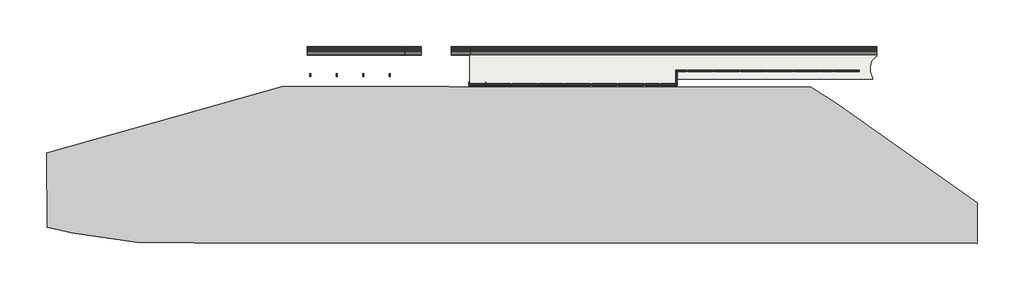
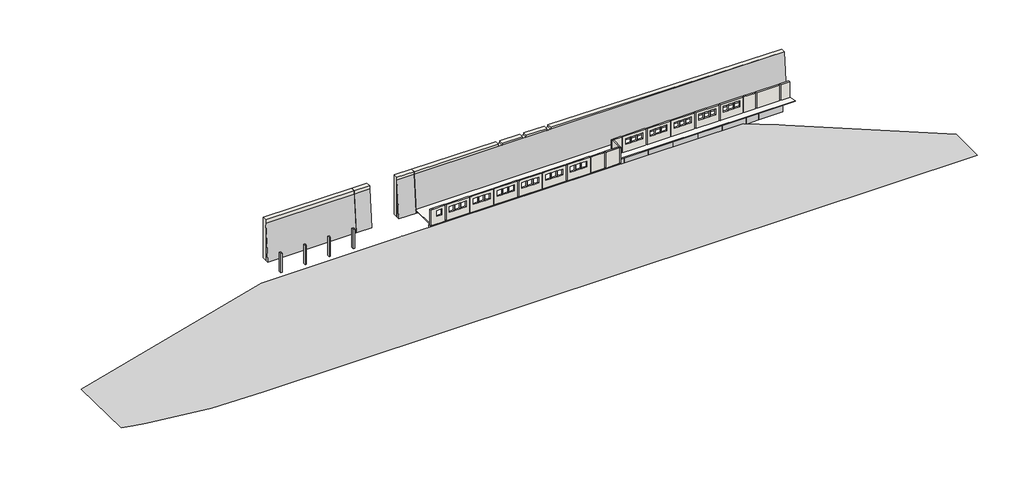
# One storey, incomplete: 23 walls, 17 beams, 5 proxies, 4 columns, 1 slab.
"""IFC4 building model written with IfcOpenShell, lengths in millimetres."""

from ifc_helpers import new_model, si_unit, point, frame, frame_2d, origin, place, context, project, spatial, polyline, circle_curve, trimmed, segment, composite_curve, outline, extrude, faceted_brep, triangles, element, save
from ifc_brep_helpers import plane_surface, revolved_surface, advanced_brep

model = new_model("IFC4")

# Units and contexts
model_context = context("Model", 3, world=origin())
ifc_project = project(units=[si_unit("LENGTHUNIT", "METRE", prefix="MILLI")], contexts=[model_context])

# Site, building, storey
site = spatial("IfcSite", under=ifc_project)
building = spatial("IfcBuilding", under=site)
storey = spatial("IfcBuildingStorey", under=building, Name="Level 01 - B.O. Footing", Elevation=-8650.0)

# Beams
placement = place(None, origin())
element("IfcBeam", 1, ObjectType="Calcestruzzo - Trave rettangolare : 600 x 1700mm", at=placement, inside=storey, context=model_context, shape_type="Brep", body=[
    faceted_brep([(17065.5072892, 24488.3920265, -8039.9600555), (17065.5072892, 23888.3920265, -8039.9600555), (17065.5394229, 23888.3920265, -8050.0), (17070.9482657, 23888.3920265, -9739.9513483), (17070.9482657, 24488.3920265, -9739.9513483), (17065.5394229, 24488.3920265, -8050.0), (13916.1234199, 24488.3920265, -8050.0399445), (13921.5643964, 24488.3920265, -9750.0312374), (13921.5643964, 23888.3920265, -9750.0312374), (13916.1234199, 23888.3920265, -8050.0399445), (16929.6573777, 23888.3920265, -9740.4035626), (16929.6573777, 24488.3920265, -9740.4035626)], [[[0, 1, 2, 3, 4, 5]], [[6, 7, 8, 9]], [[1, 0, 6, 9]], [[3, 2, 1, 9, 8, 10]], [[4, 3, 10, 8, 7, 11]], [[0, 5, 4, 11, 7, 6]]]),
])
element("IfcBeam", 2, ObjectType="Calcestruzzo - Trave rettangolare : 600 x 1700mm", at=placement, inside=storey, context=model_context, shape_type="SweptSolid", body=[
    extrude(outline(polyline([(-9750.0, 16929.6573777), (-9750.0, 21782.3573777), (-8050.0, 21782.3573777), (-8050.0, 17065.5394229), (-9739.9513483, 17070.9482657), (-9740.4035626, 16929.6573777), (-9750.0, 16929.6573777)])), frame((0.0, 23888.3920265, 0.0), z_axis=(0.0, 1.0, 0.0), x_axis=(0.0, 0.0, 1.0)), (0.0, 0.0, 1.0), 600.0),
])
element("IfcBeam", 3, ObjectType="Calcestruzzo - Trave rettangolare : 600 x 1700mm", at=placement, inside=storey, context=model_context, shape_type="SweptSolid", body=[
    extrude(outline(polyline([(53747.930208, 26413.3920265), (53796.7845474, 25813.3920265), (52039.532505, 25525.3175098), (51845.1874777, 26101.4665433), (53747.930208, 26413.3920265)])), frame((0.0, 0.0, -9750.0), z_axis=(0.0, 0.0, 1.0), x_axis=(1.0, 0.0, 0.0)), (0.0, 0.0, 1.0), 1700.0),
])
element("IfcBeam", 4, ObjectType="Calcestruzzo - Trave rettangolare : 600 x 1700mm", at=placement, inside=storey, context=model_context, shape_type="SweptSolid", body=[
    extrude(outline(polyline([(26622.3573777, 24488.3920265), (26622.3573777, 23888.3920265), (21782.3573777, 23888.3920265), (21782.3573777, 24488.3920265), (26622.3573777, 24488.3920265)])), frame((0.0, 0.0, -9750.0), z_axis=(0.0, 0.0, 1.0), x_axis=(1.0, 0.0, 0.0)), (0.0, 0.0, 1.0), 1700.0),
])
element("IfcBeam", 5, ObjectType="Calcestruzzo - Trave rettangolare : 600 x 1700mm", at=placement, inside=storey, context=model_context, shape_type="SweptSolid", body=[
    extrude(outline(polyline([(31461.2726812, 24488.3920265), (31463.4420743, 23888.3920265), (26622.3573777, 23888.3920265), (26622.3573777, 24488.3920265), (31461.2726812, 24488.3920265)])), frame((0.0, 0.0, -9750.0), z_axis=(0.0, 0.0, 1.0), x_axis=(1.0, 0.0, 0.0)), (0.0, 0.0, 1.0), 1700.0),
])
element("IfcBeam", 6, ObjectType="Calcestruzzo - Trave rettangolare : 600 x 1700mm", at=placement, inside=storey, context=model_context, shape_type="SweptSolid", body=[
    extrude(outline(polyline([(36301.2726812, 24523.3920265), (36303.4420743, 23923.3920265), (31463.4420743, 23888.3920265), (31461.2726812, 24488.3920265), (36301.2726812, 24523.3920265)])), frame((0.0, 0.0, -9750.0), z_axis=(0.0, 0.0, 1.0), x_axis=(1.0, 0.0, 0.0)), (0.0, 0.0, 1.0), 1700.0),
])
element("IfcBeam", 7, ObjectType="Calcestruzzo - Trave rettangolare : 600 x 1700mm", at=placement, inside=storey, context=model_context, shape_type="SweptSolid", body=[
    extrude(outline(polyline([(41142.3573777, 24523.3920265), (41142.3573777, 23923.3920265), (36303.4420743, 23923.3920265), (36301.2726812, 24523.3920265), (41142.3573777, 24523.3920265)])), frame((0.0, 0.0, -9750.0), z_axis=(0.0, 0.0, 1.0), x_axis=(1.0, 0.0, 0.0)), (0.0, 0.0, 1.0), 1700.0),
])
element("IfcBeam", 8, ObjectType="Calcestruzzo - Trave rettangolare : 600 x 1700mm", at=placement, inside=storey, context=model_context, shape_type="SweptSolid", body=[
    extrude(outline(polyline([(46044.2058991, 24523.3920265), (46040.5088564, 23923.3920265), (41142.3573777, 23923.3920265), (41142.3573777, 24523.3920265), (46044.2058991, 24523.3920265)])), frame((0.0, 0.0, -9750.0), z_axis=(0.0, 0.0, 1.0), x_axis=(1.0, 0.0, 0.0)), (0.0, 0.0, 1.0), 1700.0),
])
element("IfcBeam", 9, ObjectType="Calcestruzzo - Trave rettangolare : 600 x 1700mm", at=placement, inside=storey, context=model_context, shape_type="Brep", body=[
    faceted_brep([(46044.2058991, 24523.3920265, -8050.0), (46040.5088564, 23923.3920265, -8050.0), (48955.3367426, 23887.4698519, -8050.0), (50059.6420953, 24473.9060171, -8050.0), (48809.3780129, 24489.3142012, -8050.0), (46040.5088564, 23923.3920265, -9750.0), (48955.3367426, 23887.4698519, -9750.0), (46044.2058991, 24523.3920265, -9750.0), (48809.3780129, 24489.3142012, -9750.0), (50059.6420953, 24473.9060171, -9750.0)], [[[0, 1, 2, 3, 4]], [[1, 5, 6, 2]], [[5, 7, 8, 9, 6]], [[7, 0, 4, 3, 9, 8]], [[3, 2, 6, 9]], [[0, 7, 5, 1]]]),
])
element("IfcBeam", 10, ObjectType="Calcestruzzo - Trave rettangolare : 600 x 1700mm", at=placement, inside=storey, context=model_context, shape_type="SweptSolid", body=[
    extrude(outline(polyline([(68362.3573777, 26063.3893107), (68362.3573777, 25463.3893107), (63471.5908914, 25463.3893107), (63493.1238641, 26063.3893107), (68362.3573777, 26063.3893107)])), frame((0.0, 0.0, -9750.0), z_axis=(0.0, 0.0, 1.0), x_axis=(1.0, 0.0, 0.0)), (0.0, 0.0, 1.0), 1700.0),
])
element("IfcBeam", 11, ObjectType="Calcestruzzo - Trave rettangolare : 600 x 1700mm", at=placement, inside=storey, context=model_context, shape_type="SweptSolid", body=[
    extrude(outline(polyline([(58601.5908914, 25813.3920265), (53796.7845474, 25813.3920265), (53747.930208, 26413.3920265), (58623.1238641, 26413.3920265), (58601.5908914, 25813.3920265)])), frame((0.0, 0.0, -9750.0), z_axis=(0.0, 0.0, 1.0), x_axis=(1.0, 0.0, 0.0)), (0.0, 0.0, 1.0), 1700.0),
])
element("IfcBeam", 12, ObjectType="Calcestruzzo - Trave rettangolare : 600 x 1700mm", at=placement, inside=storey, context=model_context, shape_type="SweptSolid", body=[
    extrude(outline(polyline([(63471.5908914, 25463.3893107), (58601.5908914, 25813.3920265), (58623.1238641, 26413.3920265), (63493.1238641, 26063.3893107), (63471.5908914, 25463.3893107)])), frame((0.0, 0.0, -9750.0), z_axis=(0.0, 0.0, 1.0), x_axis=(1.0, 0.0, 0.0)), (0.0, 0.0, 1.0), 1700.0),
])
element("IfcBeam", 13, ObjectType="Calcestruzzo - Trave rettangolare : 600 x 1700mm", at=placement, inside=storey, context=model_context, shape_type="SweptSolid", body=[
    extrude(outline(polyline([(50059.6420953, 24473.9060171), (48809.3780129, 24489.3142012), (51845.1874777, 26101.4665433), (52039.532505, 25525.3175098), (50059.6420953, 24473.9060171)])), frame((0.0, 0.0, -9750.0), z_axis=(0.0, 0.0, 1.0), x_axis=(1.0, 0.0, 0.0)), (0.0, 0.0, 1.0), 1700.0),
])
element("IfcBeam", 14, ObjectType="Calcestruzzo - Trave rettangolare : 600 x 1700mm", at=placement, inside=storey, context=model_context, shape_type="SweptSolid", body=[
    extrude(outline(polyline([(73232.3573777, 26063.3893107), (73232.3573777, 25463.3893107), (68362.3573777, 25463.3893107), (68362.3573777, 26063.3893107), (73232.3573777, 26063.3893107)])), frame((0.0, 0.0, -9750.0), z_axis=(0.0, 0.0, 1.0), x_axis=(1.0, 0.0, 0.0)), (0.0, 0.0, 1.0), 1700.0),
])
element("IfcBeam", 15, ObjectType="Calcestruzzo - Trave rettangolare : 600 x 1700mm", at=placement, inside=storey, context=model_context, shape_type="SweptSolid", body=[
    extrude(outline(polyline([(78032.3573777, 26063.3893107), (78032.3573777, 25463.3893107), (73232.3573777, 25463.3893107), (73232.3573777, 26063.3893107), (78032.3573777, 26063.3893107)])), frame((0.0, 0.0, -9750.0), z_axis=(0.0, 0.0, 1.0), x_axis=(1.0, 0.0, 0.0)), (0.0, 0.0, 1.0), 1700.0),
])
element("IfcBeam", 16, ObjectType="Calcestruzzo - Trave rettangolare : 600 x 1700mm", at=placement, inside=storey, context=model_context, shape_type="SweptSolid", body=[
    extrude(outline(polyline([(80582.3573777, 26063.3893107), (80582.3573777, 25463.3893107), (78032.3573777, 25463.3893107), (78032.3573777, 26063.3893107), (80582.3573777, 26063.3893107)])), frame((0.0, 0.0, -9750.0), z_axis=(0.0, 0.0, 1.0), x_axis=(1.0, 0.0, 0.0)), (0.0, 0.0, 1.0), 1700.0),
])
element("IfcBeam", 17, ObjectType="Calcestruzzo - Trave rettangolare : 600 x 1700mm", at=placement, inside=storey, context=model_context, shape_type="SweptSolid", body=[
    extrude(outline(polyline([(85395.0573777, 26063.3893107), (85395.0573777, 25463.3893107), (80582.3573777, 25463.3893107), (80582.3573777, 26063.3893107), (85395.0573777, 26063.3893107)])), frame((0.0, 0.0, -9750.0), z_axis=(0.0, 0.0, 1.0), x_axis=(1.0, 0.0, 0.0)), (0.0, 0.0, 1.0), 1700.0),
])

# Proxies
element("IfcBuildingElementProxy", 18, Name="Wall Sweeps", at=placement, inside=storey, context=model_context, shape_type="SweptSolid", body=[
    extrude(outline(polyline([(30121.9947423, -8650.0), (29421.9947423, -8650.0), (30121.9947423, -850.0), (30121.9947423, -8650.0)])), frame((2232.3573777, 0.0, 0.0), z_axis=(1.0, 0.0, 0.0), x_axis=(0.0, 1.0, 0.0)), (0.0, 0.0, 1.0), 3060.0),
])
element("IfcBuildingElementProxy", 19, Name="Building Element Proxy", at=placement, inside=storey, context=model_context, shape_type="Tessellation", body=[
    triangles([(-63135.4114014, 11549.0683136, -8000.000061), (-20106.1913452, 23663.3881714, -8000.000061), (-471.2723969, 23308.9539917, -8000.000061), (8167.0113785, 23663.3881714, -8000.000061), (76387.3560059, 23563.3919495, -8000.000061), (81157.6973877, 20531.6979309, -8000.000061), (106837.1718018, 2403.864172, -8000.000061), (106837.1718018, -4950.5251511, -8000.000061), (-36140.2824097, -4931.2152832, -8000.000061), (-46534.6153931, -4804.4515091, -8000.000061), (-58574.9176758, -3037.9852043, -8000.000061), (-60851.4484863, -2532.0902115, -8000.000061), (-62976.2071655, -2026.1950733, -8000.000061)], [[1, 11, 10], [2, 1, 10], [1, 13, 12], [1, 12, 11], [10, 9, 2], [6, 8, 7], [8, 6, 4], [2, 3, 4], [2, 9, 3], [3, 9, 4], [6, 5, 4], [9, 8, 4]], closed=False),
])
element("IfcBuildingElementProxy", 20, Name="Wall Sweeps", at=placement, inside=storey, context=model_context, shape_type="SweptSolid", body=[
    extrude(outline(polyline([(30121.9947423, -8650.0), (29421.9947423, -8650.0), (30121.9947423, -850.0), (30121.9947423, -8650.0)])), frame((10792.3573777, 0.0, 0.0), z_axis=(1.0, 0.0, 0.0), x_axis=(0.0, 1.0, 0.0)), (0.0, 0.0, 1.0), 3420.0),
])
element("IfcBuildingElementProxy", 21, Name="Wall Sweeps", at=placement, inside=storey, context=model_context, shape_type="SweptSolid", body=[
    extrude(outline(polyline([(30121.9947423, -8650.0), (29421.9947423, -8650.0), (30121.9947423, -850.0), (30121.9947423, -8650.0)])), frame((-15507.6426223, 0.0, 0.0), z_axis=(1.0, 0.0, 0.0), x_axis=(0.0, 1.0, 0.0)), (0.0, 0.0, 1.0), 17740.0),
])
element("IfcBuildingElementProxy", 22, Name="Wall Sweeps", at=placement, inside=storey, context=model_context, shape_type="Brep", body=[
    faceted_brep([(88407.3573777, 30121.9947423, -8650.0), (88407.3573777, 30121.9947423, -869.2731189), (88407.3573777, 30121.9947423, -850.0), (88407.3573777, 29421.9947423, -8650.0), (14212.3573777, 30121.9947423, -8650.0), (14212.3573777, 29421.9947423, -8650.0), (14212.3573777, 30121.9947423, -850.0)], [[[0, 1, 2, 3]], [[4, 5, 6]], [[2, 1, 0, 4, 6]], [[3, 2, 6, 5]], [[0, 3, 5, 4]]]),
])

# Columns
element("IfcColumn", 23, ObjectType="Pilastro in calcestruzzo - Rettangolare : 250 x 500", at=placement, inside=storey, context=model_context, shape_type="Brep", body=[
    faceted_brep([(-346.2723874, 26013.3893107, -8650.0), (-346.2723874, 25513.3893107, -8650.0), (-596.2723874, 25513.3893107, -8650.0), (-596.2723874, 26013.3893107, -8650.0), (-346.2723874, 26013.3893107, -4870.0), (-346.2723874, 26013.3893107, -4570.0), (-346.2723874, 25713.3893107, -4570.0), (-346.2723874, 25513.3893107, -4570.0), (-596.2723874, 25513.3893107, -4570.0), (-596.2723874, 25713.3893107, -4570.0), (-596.2723874, 26013.3893107, -4570.0), (-596.2723874, 26013.3893107, -4870.0)], [[[0, 1, 2, 3]], [[1, 0, 4, 5, 6, 7]], [[2, 1, 7, 8]], [[3, 2, 8, 9, 10, 11]], [[0, 3, 11, 10, 5, 4]], [[7, 6, 5, 10, 9, 8]]]),
])
element("IfcColumn", 24, ObjectType="Pilastro in calcestruzzo - Rettangolare : 250 x 500", at=placement, inside=storey, context=model_context, shape_type="Brep", body=[
    faceted_brep([(-5186.275001, 26013.3893107, -8650.0), (-5186.275001, 25513.3893107, -8650.0), (-5436.275001, 25513.3893107, -8650.0), (-5436.275001, 26013.3893107, -8650.0), (-5186.275001, 26013.3893107, -4870.0), (-5186.275001, 26013.3893107, -4570.0), (-5186.275001, 25713.3893107, -4570.0), (-5186.275001, 25513.3893107, -4570.0), (-5436.275001, 25513.3893107, -4570.0), (-5436.275001, 25713.3893107, -4570.0), (-5436.275001, 26013.3893107, -4570.0), (-5436.275001, 26013.3893107, -4870.0)], [[[0, 1, 2, 3]], [[1, 0, 4, 5, 6, 7]], [[2, 1, 7, 8]], [[3, 2, 8, 9, 10, 11]], [[0, 3, 11, 10, 5, 4]], [[7, 6, 5, 10, 9, 8]]]),
])
element("IfcColumn", 25, ObjectType="Pilastro in calcestruzzo - Rettangolare : 250 x 500", at=placement, inside=storey, context=model_context, shape_type="Brep", body=[
    faceted_brep([(-10026.2776146, 26013.3893107, -8650.0), (-10026.2776146, 25513.3893107, -8650.0), (-10276.2776146, 25513.3893107, -8650.0), (-10276.2776146, 26013.3893107, -8650.0), (-10026.2776146, 26013.3893107, -4870.0), (-10026.2776146, 26013.3893107, -4570.0), (-10026.2776146, 25713.3893107, -4570.0), (-10026.2776146, 25513.3893107, -4570.0), (-10276.2776146, 25513.3893107, -4570.0), (-10276.2776146, 25713.3893107, -4570.0), (-10276.2776146, 26013.3893107, -4570.0), (-10276.2776146, 26013.3893107, -4870.0)], [[[0, 1, 2, 3]], [[1, 0, 4, 5, 6, 7]], [[2, 1, 7, 8]], [[3, 2, 8, 9, 10, 11]], [[0, 3, 11, 10, 5, 4]], [[7, 6, 5, 10, 9, 8]]]),
])
element("IfcColumn", 26, ObjectType="Pilastro in calcestruzzo - Rettangolare : 250 x 500", at=placement, inside=storey, context=model_context, shape_type="SweptSolid", body=[
    extrude(outline(polyline([(-14866.2723874, 26013.3893107), (-14866.2723874, 25513.3893107), (-15116.2723874, 25513.3893107), (-15116.2723874, 26013.3893107), (-14866.2723874, 26013.3893107)])), frame((0.0, 0.0, -8650.0), z_axis=(0.0, 0.0, 1.0), x_axis=(1.0, 0.0, 0.0)), (0.0, 0.0, 1.0), 4080.0),
])

# Slab
element("IfcSlab", 27, ObjectType="Concrete Slab - 12cm", at=placement, inside=storey, context=model_context, shape_type="AdvancedBrep", body=[
    advanced_brep(
    [(87674.5247809, 25077.1114671, -8040.0), (87674.5247809, 25077.1114671, -7920.0), (52067.3592785, 25077.1114671, -7920.0), (52067.3592785, 25077.1114671, -8040.0), (14154.8573777, 23913.3920265, -8040.0), (14154.8573777, 23913.3920265, -7920.0), (14154.8573777, 29563.3920265, -7920.0), (14154.8573777, 29563.3920265, -8040.0), (88407.3573777, 29563.3920265, -7920.0), (88407.3573777, 29563.3920265, -8040.0), (52067.3592785, 23913.3920265, -7920.0), (52067.3592785, 23913.3920265, -8040.0), (49007.3573777, 23913.3920265, -7920.0), (48757.3573777, 23913.3920265, -7920.0), (46167.3573777, 23913.3920265, -7920.0), (45917.3573777, 23913.3920265, -7920.0), (41267.3573777, 23913.3920265, -7920.0), (41017.3573777, 23913.3920265, -7920.0), (36427.3573777, 23913.3920265, -7920.0), (36177.3573777, 23913.3920265, -7920.0), (31587.3573777, 23913.3920265, -7920.0), (31337.3573777, 23913.3920265, -7920.0), (26747.3573777, 23913.3920265, -7920.0), (26497.3573777, 23913.3920265, -7920.0), (21907.3573777, 23913.3920265, -7920.0), (21657.3573777, 23913.3920265, -7920.0), (17067.3573777, 23913.3920265, -7920.0), (16817.3573777, 23913.3920265, -7920.0), (88407.3573777, 29220.8551645, -7920.0), (88407.3573777, 29220.8551645, -8040.0), (87307.4436306, 26423.0756846, -7920.0), (87307.4436306, 26423.0756846, -8040.0)],
    [
        (0, 1),
        (1, 2),
        (2, 3),
        (3, 0),
        (4, 5),
        (5, 6),
        (6, 7),
        (7, 4),
        (6, 8),
        (8, 9),
        (9, 7),
        (2, 10),
        (10, 11),
        (11, 3),
        (10, 12),
        (12, 13),
        (13, 14),
        (14, 15),
        (15, 16),
        (16, 17),
        (17, 18),
        (18, 19),
        (19, 20),
        (20, 21),
        (21, 22),
        (22, 23),
        (23, 24),
        (24, 25),
        (25, 26),
        (26, 27),
        (27, 5),
        (4, 11),
        (8, 28),
        (28, 29),
        (29, 9),
        (28, 30, circle_curve(frame((89733.0070866, 27084.5929908, -7920.0), z_axis=(0.0, 0.0, 1.0), x_axis=(1.0, 0.0, 0.0)), 2514.1525859)),
        (30, 31),
        (31, 29, circle_curve(frame((89733.0070866, 27084.5929908, -8040.0), z_axis=(0.0, 0.0, -1.0), x_axis=(1.0, 0.0, 0.0)), 2514.1525859)),
        (30, 1),
        (0, 31),
    ],
    [
        plane_surface(frame((87674.5247809, 25077.1114671, -8040.0), z_axis=(0.0, -1.0, 0.0), x_axis=(0.0, 0.0, 1.0))),
        plane_surface(frame((14154.8573777, 23913.3920265, -8040.0), z_axis=(-1.0, 0.0, 0.0), x_axis=(0.0, 0.0, 1.0))),
        plane_surface(frame((14154.8573777, 29563.3920265, -8040.0), z_axis=(0.0, 1.0, 0.0), x_axis=(0.0, 0.0, 1.0))),
        plane_surface(frame((52067.3592785, 25077.1114671, -8040.0), z_axis=(1.0, 0.0, 0.0), x_axis=(0.0, 0.0, 1.0))),
        plane_surface(frame((52067.3592785, 23913.3920265, -8040.0), z_axis=(0.0, -1.0, 0.0), x_axis=(0.0, 0.0, 1.0))),
        plane_surface(frame((88407.3573777, 29563.3920265, -8040.0), z_axis=(1.0, 0.0, 0.0), x_axis=(0.0, 0.0, 1.0))),
        revolved_surface(polyline([(92247.1596725, 27084.5929908, -7920.0), (92247.1596725, 27084.5929908, -8040.0)]), (89733.0070866, 27084.5929908, -7920.0), (0.0, 0.0, 1.0)),
        plane_surface(frame((87307.4436306, 26423.0756846, -8040.0), z_axis=(0.9647638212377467, 0.26311740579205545, 0.0), x_axis=(0.0, 0.0, 1.0))),
        plane_surface(frame((60530.1395599, 26593.9652362, -7920.0), z_axis=(0.0, 0.0, 1.0), x_axis=(0.0, -1.0, 0.0))),
        plane_surface(frame((60530.1395599, 26593.9652362, -8040.0), z_axis=(0.0, 0.0, -1.0), x_axis=(0.0, -1.0, 0.0))),
    ],
    [
        (0, [[1, 2, 3, 4]]),
        (1, [[5, 6, 7, 8]]),
        (2, [[-7, 9, 10, 11]]),
        (3, [[-3, 12, 13, 14]]),
        (4, [[-13, 15, 16, 17, 18, 19, 20, 21, 22, 23, 24, 25, 26, 27, 28, 29, 30, 31, -5, 32]]),
        (5, [[-10, 33, 34, 35]]),
        (6, [[-34, 36, 37, 38]]),
        (7, [[-37, 39, -1, 40]]),
        (8, [[-6, -31, -30, -29, -28, -27, -26, -25, -24, -23, -22, -21, -20, -19, -18, -17, -16, -15, -12, -2, -39, -36, -33, -9]]),
        (9, [[-11, -35, -38, -40, -4, -14, -32, -8]]),
    ],
),
])

# Walls
element("IfcWall", 28, ObjectType="muro 30cm", at=placement, inside=storey, context=model_context, shape_type="Brep", body=[
    faceted_brep([(17067.3576153, 23913.3920265, -7940.0), (21657.3573777, 23913.3920265, -7940.0), (21657.3573777, 23913.3920265, -7920.0), (21657.3573777, 23913.3920265, -4580.0), (17067.3576153, 23913.3920265, -4580.0), (18667.3573777, 23913.3920265, -5140.0), (18667.3573777, 23913.3920265, -6380.0), (17667.3573777, 23913.3920265, -6380.0), (17667.3573777, 23913.3920265, -5140.0), (19862.3573777, 23913.3920265, -5140.0), (19862.3573777, 23913.3920265, -6380.0), (18862.3573777, 23913.3920265, -6380.0), (18862.3573777, 23913.3920265, -5140.0), (21057.3573777, 23913.3920265, -5140.0), (21057.3573777, 23913.3920265, -6380.0), (20057.3573777, 23913.3920265, -6380.0), (20057.3573777, 23913.3920265, -5140.0), (21657.3573777, 24213.3920265, -7940.0), (17067.3576153, 24213.3920265, -7940.0), (17067.3576153, 24213.3920265, -4580.0), (21657.3573777, 24213.3920265, -4580.0), (18667.3573777, 24213.3920265, -6380.0), (18667.3573777, 24213.3920265, -5140.0), (17667.3573777, 24213.3920265, -5140.0), (17667.3573777, 24213.3920265, -6380.0), (19862.3573777, 24213.3920265, -6380.0), (19862.3573777, 24213.3920265, -5140.0), (18862.3573777, 24213.3920265, -5140.0), (18862.3573777, 24213.3920265, -6380.0), (21057.3573777, 24213.3920265, -6380.0), (21057.3573777, 24213.3920265, -5140.0), (20057.3573777, 24213.3920265, -5140.0), (20057.3573777, 24213.3920265, -6380.0)], [[[0, 1, 2, 3, 4], [5, 6, 7, 8], [9, 10, 11, 12], [13, 14, 15, 16]], [[17, 18, 19, 20], [21, 22, 23, 24], [25, 26, 27, 28], [29, 30, 31, 32]], [[1, 0, 18, 17]], [[3, 2, 1, 17, 20]], [[0, 4, 19, 18]], [[4, 3, 20, 19]], [[21, 6, 5, 22]], [[22, 5, 8, 23]], [[23, 8, 7, 24]], [[6, 21, 24, 7]], [[25, 10, 9, 26]], [[26, 9, 12, 27]], [[27, 12, 11, 28]], [[10, 25, 28, 11]], [[29, 14, 13, 30]], [[30, 13, 16, 31]], [[31, 16, 15, 32]], [[14, 29, 32, 15]]]),
])
element("IfcWall", 29, ObjectType="muro 30cm", at=placement, inside=storey, context=model_context, shape_type="SweptSolid", body=[
    extrude(outline(polyline([(23888.3920265, -7940.0), (23888.3920265, -4580.0), (23913.3920265, -4580.0), (24188.3920265, -4580.0), (24188.3920265, -7940.0), (23888.3920265, -7940.0)])), frame((46167.3573777, 0.0, 0.0), z_axis=(1.0, 0.0, 0.0), x_axis=(0.0, 1.0, 0.0)), (0.0, 0.0, 1.0), 2590.0),
])
element("IfcWall", 30, ObjectType="muro 30cm", at=placement, inside=storey, context=model_context, shape_type="Brep", body=[
    faceted_brep([(21907.3573777, 23888.3920265, -7940.0), (26497.3573777, 23888.3920265, -7940.0), (26497.3573777, 23888.3920265, -4580.0), (21907.3573777, 23888.3920265, -4580.0), (25897.3573777, 23888.3920265, -5140.0), (25897.3573777, 23888.3920265, -6380.0), (24897.3573777, 23888.3920265, -6380.0), (24897.3573777, 23888.3920265, -5140.0), (24702.3573777, 23888.3920265, -5140.0), (24702.3573777, 23888.3920265, -6380.0), (23702.3573777, 23888.3920265, -6380.0), (23702.3573777, 23888.3920265, -5140.0), (23507.3573777, 23888.3920265, -5140.0), (23507.3573777, 23888.3920265, -6380.0), (22507.3573777, 23888.3920265, -6380.0), (22507.3573777, 23888.3920265, -5140.0), (26497.3573777, 24188.3920265, -7940.0), (21907.3573777, 24188.3920265, -7940.0), (21907.3573777, 24188.3920265, -4580.0), (26497.3573777, 24188.3920265, -4580.0), (25897.3573777, 24188.3920265, -6380.0), (25897.3573777, 24188.3920265, -5140.0), (24897.3573777, 24188.3920265, -5140.0), (24897.3573777, 24188.3920265, -6380.0), (24702.3573777, 24188.3920265, -6380.0), (24702.3573777, 24188.3920265, -5140.0), (23702.3573777, 24188.3920265, -5140.0), (23702.3573777, 24188.3920265, -6380.0), (23507.3573777, 24188.3920265, -6380.0), (23507.3573777, 24188.3920265, -5140.0), (22507.3573777, 24188.3920265, -5140.0), (22507.3573777, 24188.3920265, -6380.0), (26497.3573777, 23913.3920265, -4580.0), (21907.3573777, 23913.3920265, -4580.0)], [[[0, 1, 2, 3], [4, 5, 6, 7], [8, 9, 10, 11], [12, 13, 14, 15]], [[16, 17, 18, 19], [20, 21, 22, 23], [24, 25, 26, 27], [28, 29, 30, 31]], [[1, 0, 17, 16]], [[2, 1, 16, 19, 32]], [[0, 3, 33, 18, 17]], [[3, 2, 32, 33]], [[19, 18, 33, 32]], [[20, 5, 4, 21]], [[21, 4, 7, 22]], [[22, 7, 6, 23]], [[5, 20, 23, 6]], [[24, 9, 8, 25]], [[25, 8, 11, 26]], [[26, 11, 10, 27]], [[9, 24, 27, 10]], [[28, 13, 12, 29]], [[29, 12, 15, 30]], [[30, 15, 14, 31]], [[13, 28, 31, 14]]]),
])
element("IfcWall", 31, ObjectType="muro 30cm", at=placement, inside=storey, context=model_context, shape_type="Brep", body=[
    faceted_brep([(26747.3573777, 23913.3920265, -7940.0), (31337.3573777, 23913.3920265, -7940.0), (31337.3573777, 23913.3920265, -7920.0), (31337.3573777, 23913.3920265, -4580.0), (26747.3573777, 23913.3920265, -4580.0), (26747.3573777, 23913.3920265, -7920.0), (30737.3573777, 23913.3920265, -5140.0), (30737.3573777, 23913.3920265, -6380.0), (29737.3573777, 23913.3920265, -6380.0), (29737.3573777, 23913.3920265, -5140.0), (29542.3573777, 23913.3920265, -5140.0), (29542.3573777, 23913.3920265, -6380.0), (28542.3573777, 23913.3920265, -6380.0), (28542.3573777, 23913.3920265, -5140.0), (28347.3573777, 23913.3920265, -5140.0), (28347.3573777, 23913.3920265, -6380.0), (27347.3573777, 23913.3920265, -6380.0), (27347.3573777, 23913.3920265, -5140.0), (31337.3573777, 24213.3920265, -7940.0), (26747.3573777, 24213.3920265, -7940.0), (26747.3573777, 24213.3920265, -4580.0), (31337.3573777, 24213.3920265, -4580.0), (30737.3573777, 24213.3920265, -6380.0), (30737.3573777, 24213.3920265, -5140.0), (29737.3573777, 24213.3920265, -5140.0), (29737.3573777, 24213.3920265, -6380.0), (29542.3573777, 24213.3920265, -6380.0), (29542.3573777, 24213.3920265, -5140.0), (28542.3573777, 24213.3920265, -5140.0), (28542.3573777, 24213.3920265, -6380.0), (28347.3573777, 24213.3920265, -6380.0), (28347.3573777, 24213.3920265, -5140.0), (27347.3573777, 24213.3920265, -5140.0), (27347.3573777, 24213.3920265, -6380.0)], [[[0, 1, 2, 3, 4, 5], [6, 7, 8, 9], [10, 11, 12, 13], [14, 15, 16, 17]], [[18, 19, 20, 21], [22, 23, 24, 25], [26, 27, 28, 29], [30, 31, 32, 33]], [[1, 0, 19, 18]], [[3, 2, 1, 18, 21]], [[0, 5, 4, 20, 19]], [[4, 3, 21, 20]], [[22, 7, 6, 23]], [[23, 6, 9, 24]], [[24, 9, 8, 25]], [[7, 22, 25, 8]], [[26, 11, 10, 27]], [[27, 10, 13, 28]], [[28, 13, 12, 29]], [[11, 26, 29, 12]], [[30, 15, 14, 31]], [[31, 14, 17, 32]], [[32, 17, 16, 33]], [[15, 30, 33, 16]]]),
])
element("IfcWall", 32, ObjectType="muro 30cm", at=placement, inside=storey, context=model_context, shape_type="Brep", body=[
    faceted_brep([(31587.3573777, 23888.3920265, -7940.0), (36177.3573777, 23888.3920265, -7940.0), (36177.3573777, 23888.3920265, -4580.0), (31587.3573777, 23888.3920265, -4580.0), (35577.3573777, 23888.3920265, -5140.0), (35577.3573777, 23888.3920265, -6380.0), (34577.3573777, 23888.3920265, -6380.0), (34577.3573777, 23888.3920265, -5140.0), (34382.3573777, 23888.3920265, -5140.0), (34382.3573777, 23888.3920265, -6380.0), (33382.3573777, 23888.3920265, -6380.0), (33382.3573777, 23888.3920265, -5140.0), (33187.3573777, 23888.3920265, -5140.0), (33187.3573777, 23888.3920265, -6380.0), (32187.3573777, 23888.3920265, -6380.0), (32187.3573777, 23888.3920265, -5140.0), (36177.3573777, 24188.3920265, -7940.0), (31587.3573777, 24188.3920265, -7940.0), (31587.3573777, 24188.3920265, -4580.0), (36177.3573777, 24188.3920265, -4580.0), (35577.3573777, 24188.3920265, -6380.0), (35577.3573777, 24188.3920265, -5140.0), (34577.3573777, 24188.3920265, -5140.0), (34577.3573777, 24188.3920265, -6380.0), (34382.3573777, 24188.3920265, -6380.0), (34382.3573777, 24188.3920265, -5140.0), (33382.3573777, 24188.3920265, -5140.0), (33382.3573777, 24188.3920265, -6380.0), (33187.3573777, 24188.3920265, -6380.0), (33187.3573777, 24188.3920265, -5140.0), (32187.3573777, 24188.3920265, -5140.0), (32187.3573777, 24188.3920265, -6380.0), (36177.3573777, 23913.3920265, -4580.0), (31587.3573777, 23913.3920265, -4580.0)], [[[0, 1, 2, 3], [4, 5, 6, 7], [8, 9, 10, 11], [12, 13, 14, 15]], [[16, 17, 18, 19], [20, 21, 22, 23], [24, 25, 26, 27], [28, 29, 30, 31]], [[1, 0, 17, 16]], [[2, 1, 16, 19, 32]], [[0, 3, 33, 18, 17]], [[3, 2, 32, 33]], [[19, 18, 33, 32]], [[20, 5, 4, 21]], [[21, 4, 7, 22]], [[22, 7, 6, 23]], [[5, 20, 23, 6]], [[24, 9, 8, 25]], [[25, 8, 11, 26]], [[26, 11, 10, 27]], [[9, 24, 27, 10]], [[28, 13, 12, 29]], [[29, 12, 15, 30]], [[30, 15, 14, 31]], [[13, 28, 31, 14]]]),
])
element("IfcWall", 33, ObjectType="muro 30cm", at=placement, inside=storey, context=model_context, shape_type="Brep", body=[
    faceted_brep([(36427.3573777, 23888.3920265, -7940.0), (41017.3573777, 23888.3920265, -7940.0), (41017.3573777, 23888.3920265, -4580.0), (36427.3573777, 23888.3920265, -4580.0), (40417.3573777, 23888.3920265, -5140.0), (40417.3573777, 23888.3920265, -6380.0), (39417.3573777, 23888.3920265, -6380.0), (39417.3573777, 23888.3920265, -5140.0), (39222.3573777, 23888.3920265, -5140.0), (39222.3573777, 23888.3920265, -6380.0), (38222.3573777, 23888.3920265, -6380.0), (38222.3573777, 23888.3920265, -5140.0), (38027.3573777, 23888.3920265, -5140.0), (38027.3573777, 23888.3920265, -6380.0), (37027.3573777, 23888.3920265, -6380.0), (37027.3573777, 23888.3920265, -5140.0), (41017.3573777, 24188.3920265, -7940.0), (36427.3573777, 24188.3920265, -7940.0), (36427.3573777, 24188.3920265, -4580.0), (41017.3573777, 24188.3920265, -4580.0), (40417.3573777, 24188.3920265, -6380.0), (40417.3573777, 24188.3920265, -5140.0), (39417.3573777, 24188.3920265, -5140.0), (39417.3573777, 24188.3920265, -6380.0), (39222.3573777, 24188.3920265, -6380.0), (39222.3573777, 24188.3920265, -5140.0), (38222.3573777, 24188.3920265, -5140.0), (38222.3573777, 24188.3920265, -6380.0), (38027.3573777, 24188.3920265, -6380.0), (38027.3573777, 24188.3920265, -5140.0), (37027.3573777, 24188.3920265, -5140.0), (37027.3573777, 24188.3920265, -6380.0), (41017.3573777, 23913.3920265, -4580.0), (36427.3573777, 23913.3920265, -4580.0)], [[[0, 1, 2, 3], [4, 5, 6, 7], [8, 9, 10, 11], [12, 13, 14, 15]], [[16, 17, 18, 19], [20, 21, 22, 23], [24, 25, 26, 27], [28, 29, 30, 31]], [[1, 0, 17, 16]], [[2, 1, 16, 19, 32]], [[0, 3, 33, 18, 17]], [[3, 2, 32, 33]], [[19, 18, 33, 32]], [[20, 5, 4, 21]], [[21, 4, 7, 22]], [[22, 7, 6, 23]], [[5, 20, 23, 6]], [[24, 9, 8, 25]], [[25, 8, 11, 26]], [[26, 11, 10, 27]], [[9, 24, 27, 10]], [[28, 13, 12, 29]], [[29, 12, 15, 30]], [[30, 15, 14, 31]], [[13, 28, 31, 14]]]),
])
element("IfcWall", 34, ObjectType="muro 30cm", at=placement, inside=storey, context=model_context, shape_type="Brep", body=[
    faceted_brep([(41267.3573777, 23888.3920265, -7940.0), (45917.3573777, 23888.3920265, -7940.0), (45917.3573777, 23888.3920265, -4580.0), (41267.3573777, 23888.3920265, -4580.0), (45257.3573777, 23888.3920265, -5140.0), (45257.3573777, 23888.3920265, -6380.0), (44257.3573777, 23888.3920265, -6380.0), (44257.3573777, 23888.3920265, -5140.0), (44062.3573777, 23888.3920265, -5140.0), (44062.3573777, 23888.3920265, -6380.0), (43062.3573777, 23888.3920265, -6380.0), (43062.3573777, 23888.3920265, -5140.0), (42867.3573777, 23888.3920265, -5140.0), (42867.3573777, 23888.3920265, -6380.0), (41867.3573777, 23888.3920265, -6380.0), (41867.3573777, 23888.3920265, -5140.0), (45917.3573777, 24188.3920265, -7940.0), (41267.3573777, 24188.3920265, -7940.0), (41267.3573777, 24188.3920265, -4580.0), (45917.3573777, 24188.3920265, -4580.0), (45257.3573777, 24188.3920265, -6380.0), (45257.3573777, 24188.3920265, -5140.0), (44257.3573777, 24188.3920265, -5140.0), (44257.3573777, 24188.3920265, -6380.0), (44062.3573777, 24188.3920265, -6380.0), (44062.3573777, 24188.3920265, -5140.0), (43062.3573777, 24188.3920265, -5140.0), (43062.3573777, 24188.3920265, -6380.0), (42867.3573777, 24188.3920265, -6380.0), (42867.3573777, 24188.3920265, -5140.0), (41867.3573777, 24188.3920265, -5140.0), (41867.3573777, 24188.3920265, -6380.0), (45917.3573777, 23913.3920265, -4580.0), (41267.3573777, 23913.3920265, -4580.0)], [[[0, 1, 2, 3], [4, 5, 6, 7], [8, 9, 10, 11], [12, 13, 14, 15]], [[16, 17, 18, 19], [20, 21, 22, 23], [24, 25, 26, 27], [28, 29, 30, 31]], [[1, 0, 17, 16]], [[2, 1, 16, 19, 32]], [[0, 3, 33, 18, 17]], [[3, 2, 32, 33]], [[19, 18, 33, 32]], [[20, 5, 4, 21]], [[21, 4, 7, 22]], [[22, 7, 6, 23]], [[5, 20, 23, 6]], [[24, 9, 8, 25]], [[25, 8, 11, 26]], [[26, 11, 10, 27]], [[9, 24, 27, 10]], [[28, 13, 12, 29]], [[29, 12, 15, 30]], [[30, 15, 14, 31]], [[13, 28, 31, 14]]]),
])
element("IfcWall", 35, ObjectType="muro 30cm", at=placement, inside=storey, context=model_context, shape_type="Brep", body=[
    faceted_brep([(51767.3599913, 26388.3920265, -7940.0), (52067.3599913, 26388.3920265, -7940.0), (53647.3573777, 26388.3920265, -7940.0), (53647.3573777, 26388.3920265, -4580.0), (52067.3599913, 26388.3920265, -4580.0), (51767.3599913, 26388.3920265, -4580.0), (51767.3599913, 26688.3920265, -7940.0), (51767.3599913, 26688.3920265, -4580.0), (53647.3573777, 26688.3920265, -4580.0), (53647.3573777, 26688.3920265, -7940.0), (51767.3599913, 26573.3947423, -4580.0), (51767.3599913, 26433.3947423, -4580.0)], [[[0, 1, 2, 3, 4, 5]], [[6, 7, 8, 9]], [[2, 1, 0, 6, 9]], [[3, 2, 9, 8]], [[5, 4, 3, 8, 7, 10, 11]], [[0, 5, 11, 10, 7, 6]]]),
])
element("IfcWall", 36, ObjectType="muro 30cm", at=placement, inside=storey, context=model_context, shape_type="Brep", body=[
    faceted_brep([(52067.3599913, 23888.3920265, -7940.0), (52067.3599913, 26388.3920265, -7940.0), (52067.3599913, 26388.3920265, -4580.0), (52067.3599913, 23913.3920265, -4580.0), (52067.3599913, 23888.3920265, -4580.0), (51767.3599913, 23888.3920265, -7940.0), (51767.3599913, 23888.3920265, -4580.0), (51767.3599913, 23913.3920265, -4580.0), (51767.3599913, 24188.3920265, -4580.0), (51767.3599913, 26388.3920265, -4580.0), (51767.3599913, 26388.3920265, -7940.0), (51767.3599913, 24188.3920265, -7940.0)], [[[0, 1, 2, 3, 4]], [[5, 6, 7, 8, 9, 10, 11]], [[1, 0, 5, 11, 10]], [[2, 1, 10, 9]], [[0, 4, 6, 5]], [[4, 3, 7, 6]], [[3, 2, 9, 8, 7]]]),
])
element("IfcWall", 37, ObjectType="muro 30cm", at=placement, inside=storey, context=model_context, shape_type="SweptSolid", body=[
    extrude(outline(composite_curve([segment(polyline([(87316.9028101, 26388.3920265), (85507.3573777, 26388.3920265), (85507.3573777, 26688.3920265), (87250.2690776, 26688.3920265)]), True, "CONTINUOUS"), segment(trimmed(circle_curve(frame_2d((89733.0070866, 27084.5929908)), 2514.1525859), [point((87250.2690776, 26688.3920265))], [point((87307.4436306, 26423.0756846))], True, "CARTESIAN"), True, "CONTINUOUS"), segment(polyline([(87307.4436306, 26423.0756846), (87316.9028101, 26388.3920265)]), True, "CONTINUOUS")], self_intersect=False)), frame((0.0, 0.0, -7940.0), z_axis=(0.0, 0.0, 1.0), x_axis=(1.0, 0.0, 0.0)), (0.0, 0.0, 1.0), 3360.0),
])
element("IfcWall", 38, ObjectType="muro 30cm", at=placement, inside=storey, context=model_context, shape_type="SweptSolid", body=[
    extrude(outline(polyline([(-7940.0, 58737.3573777), (-7940.0, 63357.3573777), (-4580.0, 63357.3573777), (-4580.0, 58737.3573777), (-7940.0, 58737.3573777)]), holes=[polyline([(-5140.0, 62732.3573777), (-6380.0, 62732.3573777), (-6380.0, 61732.3573777), (-5140.0, 61732.3573777), (-5140.0, 62732.3573777)]), polyline([(-5140.0, 61532.3573777), (-6380.0, 61532.3573777), (-6380.0, 60532.3573777), (-5140.0, 60532.3573777), (-5140.0, 61532.3573777)]), polyline([(-5140.0, 60337.3573777), (-6380.0, 60337.3573777), (-6380.0, 59337.3573777), (-5140.0, 59337.3573777), (-5140.0, 60337.3573777)])]), frame((0.0, 26388.3920265, 0.0), z_axis=(0.0, 1.0, 0.0), x_axis=(0.0, 0.0, 1.0)), (0.0, 0.0, 1.0), 300.0),
])
element("IfcWall", 39, ObjectType="muro 30cm", at=placement, inside=storey, context=model_context, shape_type="SweptSolid", body=[
    extrude(outline(polyline([(-7940.0, 63607.3573777), (-7940.0, 68237.3573777), (-4580.0, 68237.3573777), (-4580.0, 63607.3573777), (-7940.0, 63607.3573777)]), holes=[polyline([(-5140.0, 67602.3573777), (-6380.0, 67602.3573777), (-6380.0, 66602.3573777), (-5140.0, 66602.3573777), (-5140.0, 67602.3573777)]), polyline([(-5140.0, 66402.3573777), (-6380.0, 66402.3573777), (-6380.0, 65402.3573777), (-5140.0, 65402.3573777), (-5140.0, 66402.3573777)]), polyline([(-5140.0, 65207.3573777), (-6380.0, 65207.3573777), (-6380.0, 64207.3573777), (-5140.0, 64207.3573777), (-5140.0, 65207.3573777)])]), frame((0.0, 26388.3920265, 0.0), z_axis=(0.0, 1.0, 0.0), x_axis=(0.0, 0.0, 1.0)), (0.0, 0.0, 1.0), 300.0),
])
element("IfcWall", 40, ObjectType="muro 30cm", at=placement, inside=storey, context=model_context, shape_type="SweptSolid", body=[
    extrude(outline(polyline([(-7940.0, 68487.3573777), (-7940.0, 73107.3573777), (-4580.0, 73107.3573777), (-4580.0, 68487.3573777), (-7940.0, 68487.3573777)]), holes=[polyline([(-5140.0, 72482.3573777), (-6380.0, 72482.3573777), (-6380.0, 71482.3573777), (-5140.0, 71482.3573777), (-5140.0, 72482.3573777)]), polyline([(-5140.0, 71282.3573777), (-6380.0, 71282.3573777), (-6380.0, 70282.3573777), (-5140.0, 70282.3573777), (-5140.0, 71282.3573777)]), polyline([(-5140.0, 70087.3573777), (-6380.0, 70087.3573777), (-6380.0, 69087.3573777), (-5140.0, 69087.3573777), (-5140.0, 70087.3573777)])]), frame((0.0, 26388.3920265, 0.0), z_axis=(0.0, 1.0, 0.0), x_axis=(0.0, 0.0, 1.0)), (0.0, 0.0, 1.0), 300.0),
])
element("IfcWall", 41, ObjectType="muro 30cm", at=placement, inside=storey, context=model_context, shape_type="SweptSolid", body=[
    extrude(outline(polyline([(-7940.0, 73357.3573777), (-7940.0, 77907.3573777), (-4580.0, 77907.3573777), (-4580.0, 73357.3573777), (-7940.0, 73357.3573777)]), holes=[polyline([(-5140.0, 77352.3573777), (-6380.0, 77352.3573777), (-6380.0, 76352.3573777), (-5140.0, 76352.3573777), (-5140.0, 77352.3573777)]), polyline([(-5140.0, 76152.3573777), (-6380.0, 76152.3573777), (-6380.0, 75152.3573777), (-5140.0, 75152.3573777), (-5140.0, 76152.3573777)]), polyline([(-5140.0, 74957.3573777), (-6380.0, 74957.3573777), (-6380.0, 73957.3573777), (-5140.0, 73957.3573777), (-5140.0, 74957.3573777)])]), frame((0.0, 26388.3920265, 0.0), z_axis=(0.0, 1.0, 0.0), x_axis=(0.0, 0.0, 1.0)), (0.0, 0.0, 1.0), 300.0),
])
element("IfcWall", 42, ObjectType="muro 30cm", at=placement, inside=storey, context=model_context, shape_type="SweptSolid", body=[
    extrude(outline(polyline([(80457.3573777, 26388.3920265), (78157.3576153, 26388.3920265), (78157.3576153, 26688.3920265), (80457.3573777, 26688.3920265), (80457.3573777, 26388.3920265)])), frame((0.0, 0.0, -7940.0), z_axis=(0.0, 0.0, 1.0), x_axis=(1.0, 0.0, 0.0)), (0.0, 0.0, 1.0), 3360.0),
])
element("IfcWall", 43, ObjectType="muro 30cm", at=placement, inside=storey, context=model_context, shape_type="SweptSolid", body=[
    extrude(outline(polyline([(85257.3573777, 26388.3920265), (80707.3573777, 26388.3920265), (80707.3573777, 26688.3920265), (85257.3573777, 26688.3920265), (85257.3573777, 26388.3920265)])), frame((0.0, 0.0, -7940.0), z_axis=(0.0, 0.0, 1.0), x_axis=(1.0, 0.0, 0.0)), (0.0, 0.0, 1.0), 3360.0),
])
element("IfcWall", 44, ObjectType="muro 30cm", at=placement, inside=storey, context=model_context, shape_type="SweptSolid", body=[
    extrude(outline(polyline([(23888.3920265, -7940.0), (23888.3920265, -4580.0), (23913.3920265, -4580.0), (24188.3920265, -4580.0), (24188.3920265, -7940.0), (23888.3920265, -7940.0)])), frame((49007.3573777, 0.0, 0.0), z_axis=(1.0, 0.0, 0.0), x_axis=(0.0, 1.0, 0.0)), (0.0, 0.0, 1.0), 2760.0026136),
])
element("IfcWall", 45, ObjectType="muro 30cm", at=placement, inside=storey, context=model_context, shape_type="SweptSolid", body=[
    extrude(outline(polyline([(-7940.0, 53897.3573777), (-7940.0, 58487.3573777), (-4580.0, 58487.3573777), (-4580.0, 53897.3573777), (-7940.0, 53897.3573777)]), holes=[polyline([(-6380.0, 55497.3573777), (-6380.0, 54497.3573777), (-5140.0, 54497.3573777), (-5140.0, 55497.3573777), (-6380.0, 55497.3573777)]), polyline([(-6380.0, 56692.3573777), (-6380.0, 55692.3573777), (-5140.0, 55692.3573777), (-5140.0, 56692.3573777), (-6380.0, 56692.3573777)]), polyline([(-6380.0, 57892.3573777), (-6380.0, 56892.3573777), (-5140.0, 56892.3573777), (-5140.0, 57892.3573777), (-6380.0, 57892.3573777)])]), frame((0.0, 26388.3920265, 0.0), z_axis=(0.0, 1.0, 0.0), x_axis=(0.0, 0.0, 1.0)), (0.0, 0.0, 1.0), 300.0),
])
element("IfcWall", 46, ObjectType="muro 30cm", at=placement, inside=storey, context=model_context, shape_type="Brep", body=[
    faceted_brep([(13942.3599913, 23913.3920265, -7940.0), (16817.3573777, 23913.3920265, -7940.0), (16817.3573777, 23913.3920265, -7920.0), (16817.3573777, 23913.3920265, -4580.0), (14467.3573777, 23913.3920265, -4580.0), (14217.3573777, 23913.3920265, -4580.0), (14154.8573777, 23913.3920265, -4580.0), (13942.3599913, 23913.3920265, -4580.0), (16217.3573777, 23913.3920265, -5140.0), (16217.3573777, 23913.3920265, -6380.0), (15217.3573777, 23913.3920265, -6380.0), (15217.3573777, 23913.3920265, -5140.0), (16817.3573777, 24213.3920265, -7940.0), (13942.3599913, 24213.3920265, -7940.0), (13942.3599913, 24213.3920265, -4580.0), (14154.8573777, 24213.3920265, -4580.0), (14217.3573777, 24213.3920265, -4580.0), (14467.3573777, 24213.3920265, -4580.0), (16817.3573777, 24213.3920265, -4580.0), (16217.3573777, 24213.3920265, -6380.0), (16217.3573777, 24213.3920265, -5140.0), (15217.3573777, 24213.3920265, -5140.0), (15217.3573777, 24213.3920265, -6380.0)], [[[0, 1, 2, 3, 4, 5, 6, 7], [8, 9, 10, 11]], [[12, 13, 14, 15, 16, 17, 18], [19, 20, 21, 22]], [[1, 0, 13, 12]], [[3, 2, 1, 12, 18]], [[0, 7, 14, 13]], [[19, 9, 8, 20]], [[20, 8, 11, 21]], [[21, 11, 10, 22]], [[9, 19, 22, 10]], [[5, 4, 17, 16]], [[14, 7, 6, 15]], [[4, 3, 18, 17]], [[6, 5, 16, 15]]]),
])
element("IfcWall", 47, ObjectType="muro 90cm", at=placement, inside=storey, context=model_context, shape_type="Brep", body=[
    faceted_brep([(2232.3573777, 31021.9947423, -8650.0), (2232.3573777, 31021.9947423, -179.8042596), (5292.3573777, 31021.9947423, -218.1545143), (5292.3573777, 31021.9947423, -8650.0), (2232.3573777, 30121.9947423, -8650.0), (5292.3573777, 30121.9947423, -8650.0), (5292.3573777, 30121.9947423, -850.0), (5292.3573777, 30121.9947423, -218.1545143), (2232.3573777, 30121.9947423, -179.8042596), (2232.3573777, 30121.9947423, -850.0)], [[[0, 1, 2, 3]], [[4, 5, 6, 7, 8, 9]], [[1, 0, 4, 9, 8]], [[2, 1, 8, 7]], [[3, 2, 7, 6, 5]], [[0, 3, 5, 4]]]),
])
element("IfcWall", 48, ObjectType="muro 90cm", at=placement, inside=storey, context=model_context, shape_type="Brep", body=[
    faceted_brep([(10792.3573777, 31021.9947423, -287.0847106), (14212.3573777, 31021.9947423, -329.94676), (14212.3573777, 31021.9947423, -8650.0), (10792.3573777, 31021.9947423, -8650.0), (10792.3573777, 30121.9947423, -287.0847106), (10792.3573777, 30121.9947423, -850.0), (10792.3573777, 30121.9947423, -8650.0), (14212.3573777, 30121.9947423, -8650.0), (14212.3573777, 30121.9947423, -850.0), (14212.3573777, 30121.9947423, -329.94676)], [[[0, 1, 2, 3]], [[4, 5, 6, 7, 8, 9]], [[3, 2, 7, 6]], [[2, 1, 9, 8, 7]], [[0, 3, 6, 5, 4]], [[1, 0, 4, 9]]]),
])
element("IfcWall", 49, ObjectType="muro 90cm", at=placement, inside=storey, context=model_context, shape_type="Brep", body=[
    faceted_brep([(-15507.6426223, 31021.9947423, -118.5599909), (2232.3573777, 31021.9947423, -179.944074), (2232.3573777, 31021.9947423, -8650.0), (-15507.6426223, 31021.9947423, -8650.0), (-15507.6426223, 30121.9947423, -118.5599909), (-15507.6426223, 30121.9947423, -850.0), (-15507.6426223, 30121.9947423, -8650.0), (2232.3573777, 30121.9947423, -8650.0), (2232.3573777, 30121.9947423, -850.0), (2232.3573777, 30121.9947423, -179.944074)], [[[0, 1, 2, 3]], [[4, 5, 6, 7, 8, 9]], [[1, 0, 4, 9]], [[3, 2, 7, 6]], [[2, 1, 9, 8, 7]], [[0, 3, 6, 5, 4]]]),
])
element("IfcWall", 50, ObjectType="muro 90cm", at=placement, inside=storey, context=model_context, shape_type="Brep", body=[
    faceted_brep([(14212.3573777, 31021.9947423, -8650.0), (14212.3573777, 31021.9947423, -333.2), (14217.3573777, 31021.9947423, -333.2), (14217.3573777, 31021.9947423, -330.0), (31092.5952399, 31021.9947423, -452.6629216), (31092.5952399, 31021.9947423, -935.105481), (31881.8878047, 31021.9947423, -935.105481), (31881.8878047, 31021.9947423, -458.4001404), (35932.5952399, 31021.9947423, -487.8439688), (35932.5952399, 31021.9947423, -935.105481), (36721.8878047, 31021.9947423, -935.105481), (36721.8878047, 31021.9947423, -493.5811877), (40772.5952399, 31021.9947423, -523.0250161), (40772.5952399, 31021.9947423, -935.105481), (41561.8878047, 31021.9947423, -935.105481), (41561.8878047, 31021.9947423, -528.7622349), (88407.3573777, 31021.9947423, -869.2731189), (88407.3573777, 31021.9947423, -8650.0), (14212.3573777, 30121.9947423, -8650.0), (88407.3573777, 30121.9947423, -8650.0), (88407.3573777, 30121.9947423, -869.2731189), (41561.8878047, 30121.9947423, -528.7622349), (41561.8878047, 30121.9947423, -935.105481), (40772.5952399, 30121.9947423, -935.105481), (40772.5952399, 30121.9947423, -523.0250161), (36721.8878047, 30121.9947423, -493.5811877), (36721.8878047, 30121.9947423, -935.105481), (35932.5952399, 30121.9947423, -935.105481), (35932.5952399, 30121.9947423, -487.8439688), (31881.8878047, 30121.9947423, -458.4001404), (31881.8878047, 30121.9947423, -935.105481), (31092.5952399, 30121.9947423, -935.105481), (31092.5952399, 30121.9947423, -452.6629216), (14217.3573777, 30121.9947423, -330.0), (14217.3573777, 30121.9947423, -333.2), (14212.3573777, 30121.9947423, -333.2), (14212.3573777, 30121.9947423, -850.0)], [[[0, 1, 2, 3, 4, 5, 6, 7, 8, 9, 10, 11, 12, 13, 14, 15, 16, 17]], [[18, 19, 20, 21, 22, 23, 24, 25, 26, 27, 28, 29, 30, 31, 32, 33, 34, 35, 36]], [[1, 0, 18, 36, 35]], [[0, 17, 19, 18]], [[2, 1, 35, 34]], [[2, 34, 33, 3]], [[4, 3, 33, 32]], [[5, 4, 32, 31]], [[6, 5, 31, 30]], [[7, 6, 30, 29]], [[9, 8, 28, 27]], [[10, 9, 27, 26]], [[11, 10, 26, 25]], [[13, 12, 24, 23]], [[14, 13, 23, 22]], [[15, 14, 22, 21]], [[8, 7, 29, 28]], [[12, 11, 25, 24]], [[16, 15, 21, 20]], [[17, 16, 20, 19]]]),
])

save(model, "model.ifc")
